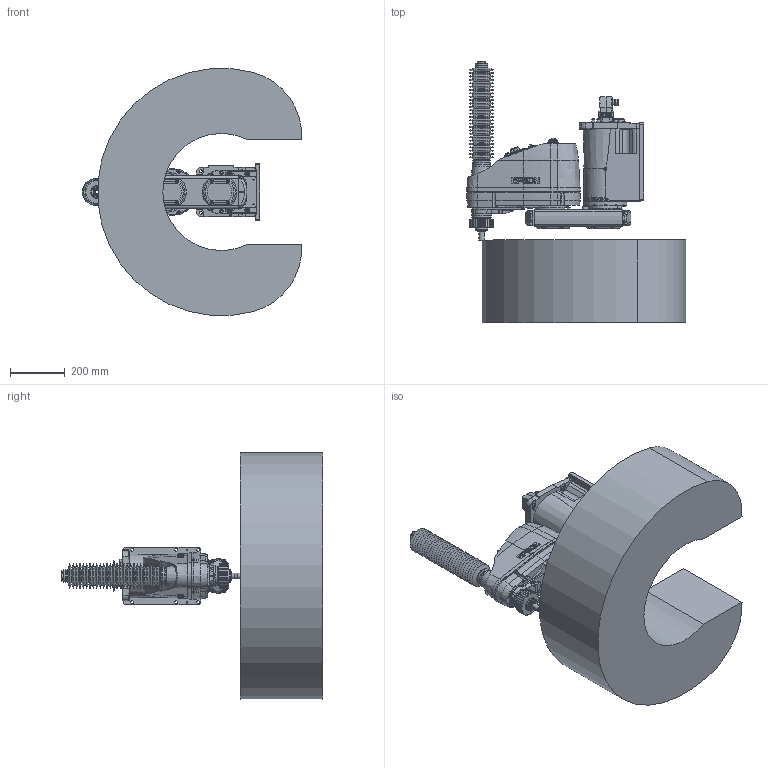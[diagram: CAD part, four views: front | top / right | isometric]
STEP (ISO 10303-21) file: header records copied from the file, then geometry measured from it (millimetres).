
FILE_DESCRIPTION( ( 'STEP AP214' ), '1' );
FILE_NAME( 'C:/Users/9607552/Desktop/GX8-B453CW_langle.stp', '2023-07-07T02:12:32', ( '' ), ( '' ), ' ', 'PARTsolutions', ' ' );
FILE_SCHEMA( ( 'AUTOMOTIVE_DESIGN { 1 0 10303 214 1 1 1 1 }' ) );
Length unit declared in the file: millimetre
Products named in the file (11): GX8-B453CWA-W; _B452CW_BASE; _B452CR; _B452CR_1; _B452CR_2; _B452C_J2; _B453CZA; _2-B-long; _2-B-short; _Angle-B; _GX8-12-1-B_WS
Assembly tree (12 placements, depth 2):
  GX8-B453CWA-W
    _B452CW_BASE
    _B452CR
    _B452CR_1  x2
    _B452CR_2  x2
    _B452C_J2
    _B453CZA
    _2-B-long
    _2-B-short
    _Angle-B
    _GX8-12-1-B_WS
Bounding box: 796.98 x 950.5 x 896.58 mm (x, y, z)
Volume: 134913734.7 mm3; surface area: 3315761.9 mm2
Topology: 12 solids, 16 shells, 3411 faces, 8217 edges, 5301 vertices
Faces by surface type: plane 1642, cylinder 1124, cone 444, torus 159, bspline 37, sphere 5
Full cylindrical faces by diameter (mm): 1 x48, 1.18 x55, 2.261 x4, 2.459 x12, 3 x32, 3.242 x18, 3.3 x4, 3.9 x4, 4.2 x8, 4.5 x12, 4.8 x5, 5.34 x4, 5.5 x17, 6 x6, 6.2 x4, 6.647 x4, 6.8 x2, 7 x42, 8 x5, 8.5 x4, 9 x24, 10 x24, 11 x4, 11.2 x5, 11.5 x1, 12 x5, 12.2 x1, 12.25 x1, 13 x7, 13.2 x12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
Entity records: 120649 total; most frequent: CARTESIAN_POINT 22127, DIRECTION 15137, ORIENTED_EDGE 13496, EDGE_CURVE 6748, AXIS2_PLACEMENT_3D 5905, VERTEX_POINT 4915, EDGE_LOOP 4675, FACE_OUTER_BOUND 3862
